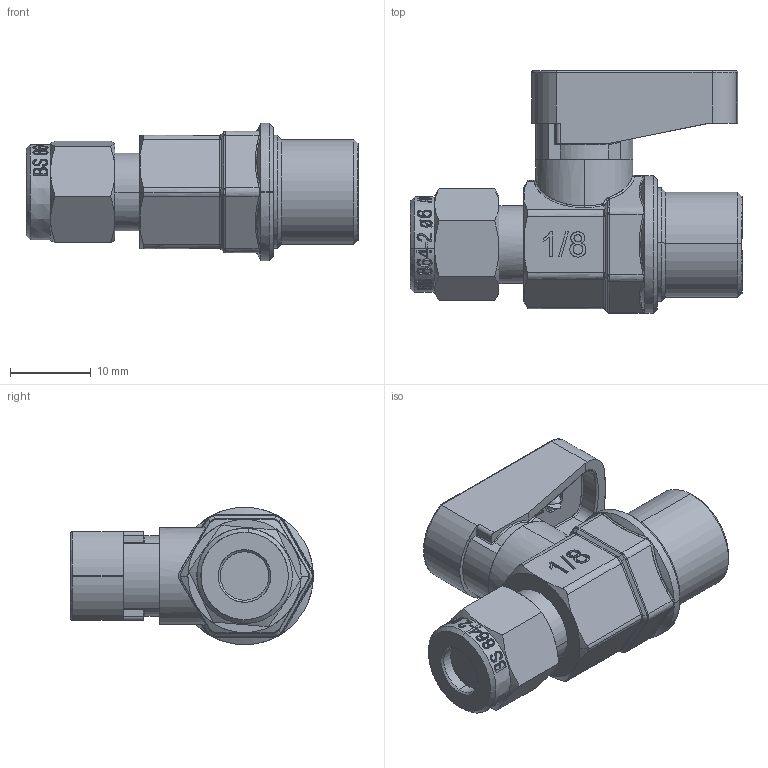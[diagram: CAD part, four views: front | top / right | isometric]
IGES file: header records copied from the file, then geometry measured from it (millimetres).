
Start section: SolidWorks IGES file using analytic representation for surfaces
Global section: file name: K:\Disegni Esecutivi\GHILUX\ASSIEMI_GHILUX\6430\ASSIEMI_.IGES_6430\0643000001A.IGS; native system: SolidWorks 2009; preprocessor: SolidWorks 2009; author: cad02; date: 090925.103107; units: millimetre
Bounding box: 41.05 x 30.01 x 17 mm (x, y, z)
Surface area: 4967.9 mm2 (no closed solid volume)
Topology: 0 solids, 0 shells, 950 faces, 8740 edges, 8739 vertices
Faces by surface type: bspline 732, revolution 218
